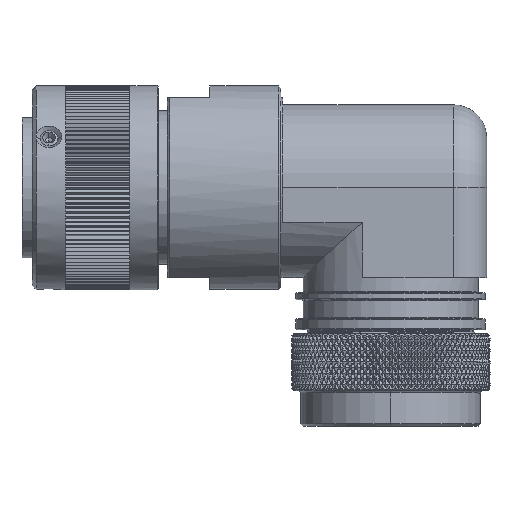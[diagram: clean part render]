
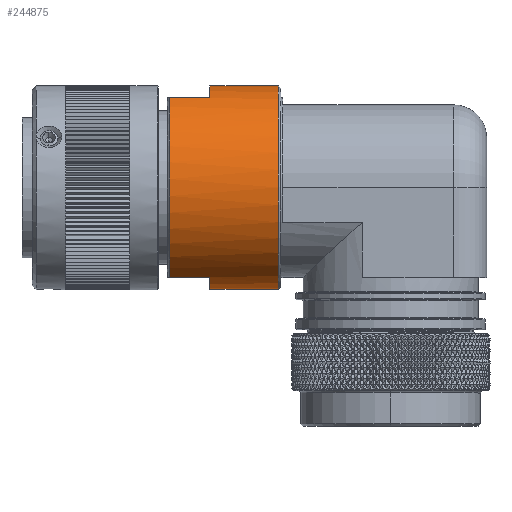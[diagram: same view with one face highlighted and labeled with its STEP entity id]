
A CAD part, top view. The second image highlights one B-rep face of the part: STEP entity #244875.
In plain terms, the highlighted cylindrical face has radius 21.5 mm (diameter 43 mm), a partial arc.
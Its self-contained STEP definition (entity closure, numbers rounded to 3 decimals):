
#81274=CARTESIAN_POINT('',(39.7,0.,0.));
#81275=DIRECTION('',(1.,0.,0.));
#81276=DIRECTION('',(0.,1.,0.));
#81277=AXIS2_PLACEMENT_3D('',#81274,#81275,#81276);
#81279=CARTESIAN_POINT('',(54.2,0.,0.));
#81280=DIRECTION('',(-1.,0.,0.));
#81281=DIRECTION('',(0.,-1.,0.));
#81282=AXIS2_PLACEMENT_3D('',#81279,#81280,#81281);
#81284=CARTESIAN_POINT('',(39.7,0.,0.));
#81285=DIRECTION('',(1.,0.,0.));
#81286=DIRECTION('',(0.,-0.884,0.468));
#81287=AXIS2_PLACEMENT_3D('',#81284,#81285,#81286);
#81289=DIRECTION('',(1.,0.,0.));
#81290=VECTOR('',#81289,8.5);
#81291=CARTESIAN_POINT('',(31.2,-19.,10.062));
#81292=LINE('12735',#81291,#81290);
#81293=CARTESIAN_POINT('',(31.2,0.,0.));
#81294=DIRECTION('',(-1.,0.,0.));
#81295=DIRECTION('',(0.,-0.884,0.468));
#81296=AXIS2_PLACEMENT_3D('',#81293,#81294,#81295);
#81298=DIRECTION('',(1.,0.,0.));
#81299=VECTOR('',#81298,8.5);
#81300=CARTESIAN_POINT('',(31.2,19.,10.062));
#81301=LINE('12734',#81300,#81299);
#81347=DIRECTION('',(-1.,0.,0.));
#81348=VECTOR('',#81347,14.5);
#81349=CARTESIAN_POINT('',(54.2,-21.5,
0.));
#81350=LINE('12757',#81349,#81348);
#81356=DIRECTION('',(-1.,0.,0.));
#81357=VECTOR('',#81356,14.5);
#81358=CARTESIAN_POINT('',(54.2,21.5,
0.));
#81359=LINE('12756',#81358,#81357);
#97895=CARTESIAN_POINT('',(39.7,21.5,0.));
#97896=CARTESIAN_POINT('',(39.7,19.,10.062));
#97897=VERTEX_POINT('',#97895);
#97898=VERTEX_POINT('',#97896);
#97899=CARTESIAN_POINT('',(39.7,-19.,10.062));
#97900=CARTESIAN_POINT('',(39.7,-21.5,0.));
#97901=VERTEX_POINT('',#97899);
#97902=VERTEX_POINT('',#97900);
#97903=CARTESIAN_POINT('',(31.2,19.,10.062));
#97904=VERTEX_POINT('',#97903);
#97905=CARTESIAN_POINT('',(31.2,-19.,10.062));
#97906=VERTEX_POINT('',#97905);
#97915=CARTESIAN_POINT('',(54.2,-21.5,0.));
#97916=CARTESIAN_POINT('',(54.2,21.5,0.));
#97917=VERTEX_POINT('',#97915);
#97918=VERTEX_POINT('',#97916);
#244853=CARTESIAN_POINT('',(29.5,0.,0.));
#244854=DIRECTION('',(1.,0.,0.));
#244855=DIRECTION('',(0.,-1.,0.));
#244856=AXIS2_PLACEMENT_3D('',#244853,#244854,#244855);
#244857=CYLINDRICAL_SURFACE('1681',#244856,21.5);
#244859=ORIENTED_EDGE('12732',*,*,#244858,.F.);
#244861=ORIENTED_EDGE('12756',*,*,#244860,.F.);
#244862=ORIENTED_EDGE('12742',*,*,#244836,.F.);
#244864=ORIENTED_EDGE('12757',*,*,#244863,.T.);
#244866=ORIENTED_EDGE('12733',*,*,#244865,.F.);
#244868=ORIENTED_EDGE('12735',*,*,#244867,.F.);
#244870=ORIENTED_EDGE('12753',*,*,#244869,.T.);
#244872=ORIENTED_EDGE('12734',*,*,#244871,.T.);
#244873=EDGE_LOOP('1681',(#244859,#244861,#244862,#244864,#244866,#244868,
#244870,#244872));
#244874=FACE_OUTER_BOUND('1681',#244873,.F.);
#81278=CIRCLE('12732',#81277,21.5);
#81283=CIRCLE('12742',#81282,21.5);
#81288=CIRCLE('12733',#81287,21.5);
#81297=CIRCLE('12753',#81296,21.5);
#244836=EDGE_CURVE('12742',#97917,#97918,#81283,.T.);
#244858=EDGE_CURVE('12732',#97897,#97898,#81278,.T.);
#244860=EDGE_CURVE('12756',#97918,#97897,#81359,.T.);
#244863=EDGE_CURVE('12757',#97917,#97902,#81350,.T.);
#244865=EDGE_CURVE('12733',#97901,#97902,#81288,.T.);
#244867=EDGE_CURVE('12735',#97906,#97901,#81292,.T.);
#244869=EDGE_CURVE('12753',#97906,#97904,#81297,.T.);
#244871=EDGE_CURVE('12734',#97904,#97898,#81301,.T.);
#244875=ADVANCED_FACE('1681',(#244874),#244857,.T.);
